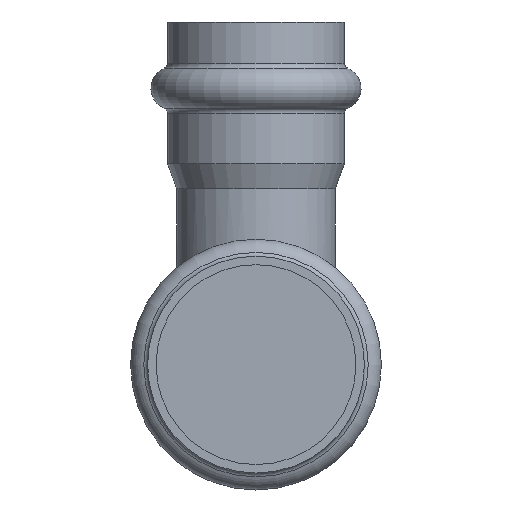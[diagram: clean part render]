
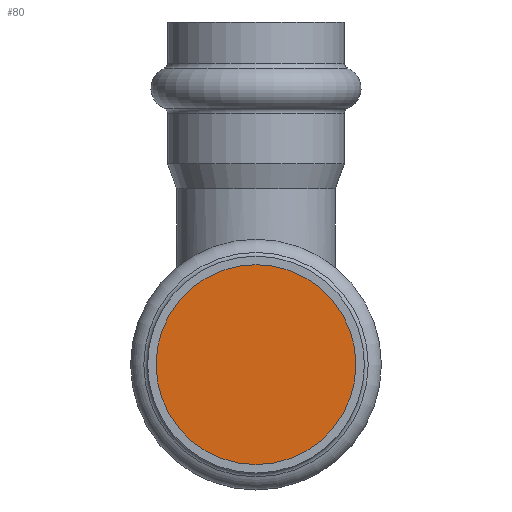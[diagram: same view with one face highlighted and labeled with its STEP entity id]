
A CAD part, front view. The second image highlights one B-rep face of the part: STEP entity #80.
In plain terms, the highlighted planar face has unit normal (0, -1, 0).
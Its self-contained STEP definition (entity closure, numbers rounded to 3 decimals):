
#80=ADVANCED_FACE('',(#325),#327,.T.);
#325=FACE_BOUND('',#326,.T.);
#326=EDGE_LOOP('',(#395));
#327=PLANE('',#328);
#328=AXIS2_PLACEMENT_3D('',#329,#330,#331);
#329=CARTESIAN_POINT('',(0.,-48.743,0.));
#330=DIRECTION('',(0.,-1.,0.));
#331=DIRECTION('',(0.,0.,-1.));
#395=ORIENTED_EDGE('',*,*,#424,.T.);
#424=EDGE_CURVE('',#480,#480,#481,.F.);
#480=VERTEX_POINT('',#855);
#481=CIRCLE('',#856,17.65);
#855=CARTESIAN_POINT('',(0.,-48.743,17.65));
#856=AXIS2_PLACEMENT_3D('',#857,#858,#859);
#857=CARTESIAN_POINT('',(0.,-48.743,0.));
#858=DIRECTION('',(0.,1.,0.));
#859=DIRECTION('',(0.,0.,1.));
